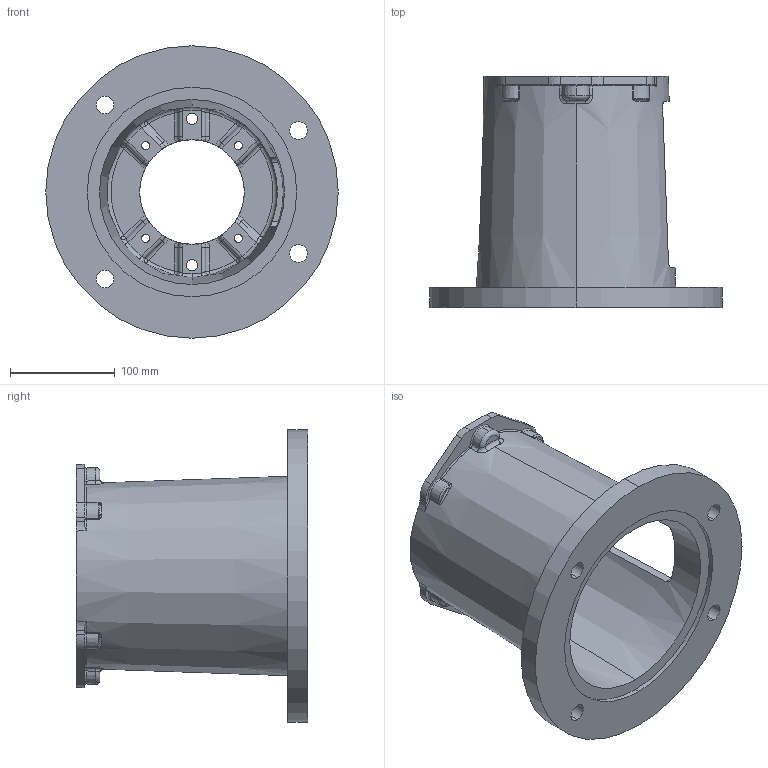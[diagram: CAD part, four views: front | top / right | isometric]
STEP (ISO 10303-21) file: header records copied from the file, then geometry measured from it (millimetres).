
FILE_DESCRIPTION (( 'STEP AP203' ), '1' );
FILE_NAME ('E78786100M.STEP', '2014-11-04T15:59:15', ( '' ), ( '' ), 'SwSTEP 2.0', 'SolidWorks 2014', '' );
FILE_SCHEMA (( 'CONFIG_CONTROL_DESIGN' ));
Length unit declared in the file: inch
Products named in the file (1): E78786100M
Bounding box: 279.4 x 220.73 x 279.4 mm (x, y, z)
Volume: 1611330.3 mm3; surface area: 348239.1 mm2
Topology: 1 solids, 1 shells, 354 faces, 902 edges, 540 vertices
Faces by surface type: torus 106, cylinder 86, bspline 64, plane 50, sphere 24, cone 24
Entity records: 14159 total; most frequent: CARTESIAN_POINT 5907, ORIENTED_EDGE 1780, DIRECTION 1734, EDGE_CURVE 890, AXIS2_PLACEMENT_3D 787, VERTEX_POINT 540, CIRCLE 496, EDGE_LOOP 380
